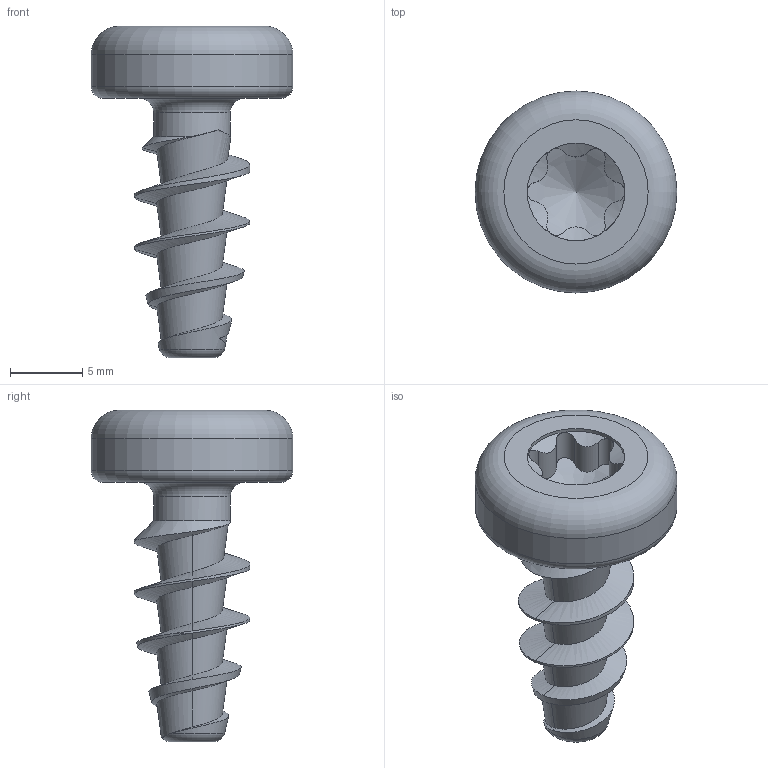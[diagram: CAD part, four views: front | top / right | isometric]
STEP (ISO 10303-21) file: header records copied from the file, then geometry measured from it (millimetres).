
FILE_DESCRIPTION(/* description */ (''),/* implementation_level */ '2;1');
FILE_NAME(/* name */ 'KN1039-STS-80x18-T40.step',/* time_stamp */ '2017-10-17T13:47:08+02:00',/* author */ (''),/* organization */ (''),/* preprocessor_version */ 'ST-DEVELOPER v16',/* originating_system */ 'SIEMENS PLM Software NX 10.0',/* authorisation */ '');
FILE_SCHEMA (('AUTOMOTIVE_DESIGN { 1 0 10303 214 3 1 1 1 }'));
Length unit declared in the file: millimetre
Products named in the file (1): KN1039-STS-80x18-T40
Bounding box: 14 x 14 x 23 mm (x, y, z)
Volume: 1023.1 mm3; surface area: 954.2 mm2
Topology: 1 solids, 1 shells, 42 faces, 106 edges, 67 vertices
Faces by surface type: cylinder 16, bspline 15, cone 4, torus 4, plane 3
Full cylindrical faces by diameter (mm): 5.31 x1, 6.77 x1, 14 x1
Entity records: 2972 total; most frequent: CARTESIAN_POINT 2157, ORIENTED_EDGE 182, DIRECTION 106, EDGE_CURVE 91, VERTEX_POINT 62, B_SPLINE_CURVE_WITH_KNOTS 54, EDGE_LOOP 52, ADVANCED_FACE 42
